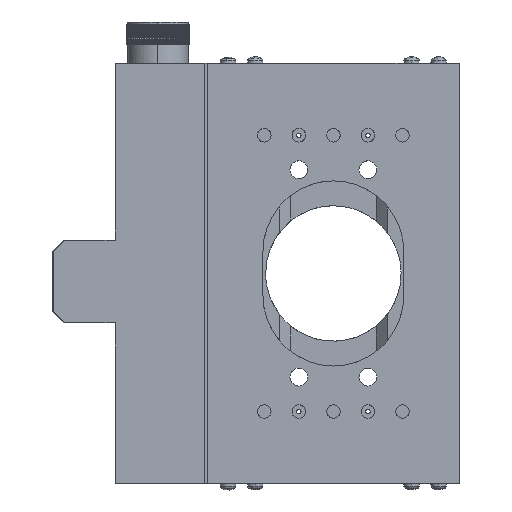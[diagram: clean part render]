
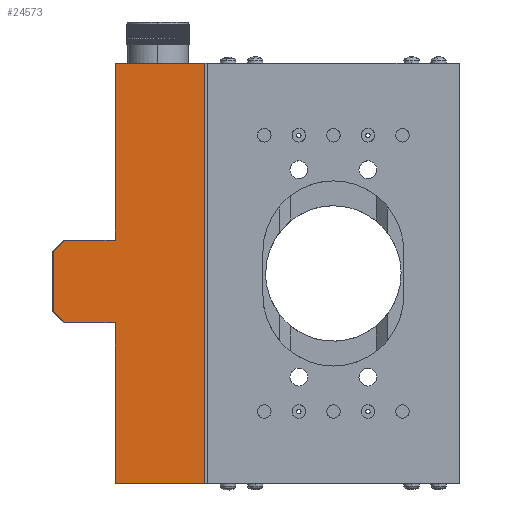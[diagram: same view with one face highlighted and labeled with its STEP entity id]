
A CAD part, front view. The second image highlights one B-rep face of the part: STEP entity #24573.
In plain terms, the highlighted planar face has unit normal (0, -1, 0).
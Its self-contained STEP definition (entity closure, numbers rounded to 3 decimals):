
#7613 = EDGE_CURVE ( 'NONE', #7629, #7614, #41215, .T. ) ;
#7614 = VERTEX_POINT ( 'NONE', #41211 ) ;
#7621 = EDGE_CURVE ( 'NONE', #7614, #7622, #41265, .T. ) ;
#7622 = VERTEX_POINT ( 'NONE', #41261 ) ;
#7629 = VERTEX_POINT ( 'NONE', #41250 ) ;
#7633 = VERTEX_POINT ( 'NONE', #41248 ) ;
#7635 = EDGE_CURVE ( 'NONE', #7633, #7629, #41243, .T. ) ;
#7667 = EDGE_CURVE ( 'NONE', #7685, #7668, #41313, .T. ) ;
#7668 = VERTEX_POINT ( 'NONE', #41305 ) ;
#7684 = EDGE_CURVE ( 'NONE', #7622, #7685, #41330, .T. ) ;
#7685 = VERTEX_POINT ( 'NONE', #41326 ) ;
#13275 = VERTEX_POINT ( 'NONE', #56352 ) ;
#18081 = VERTEX_POINT ( 'NONE', #92497 ) ;
#18083 = EDGE_CURVE ( 'NONE', #18081, #13275, #92487, .T. ) ;
#20714 = EDGE_CURVE ( 'NONE', #7668, #18081, #56498, .T. ) ;
#20730 = VERTEX_POINT ( 'NONE', #56565 ) ;
#20733 = EDGE_CURVE ( 'NONE', #20730, #7633, #56559, .T. ) ;
#24554 = ORIENTED_EDGE ( 'NONE', *, *, #7613, .F. ) ;
#24555 = ORIENTED_EDGE ( 'NONE', *, *, #7635, .F. ) ;
#24556 = ORIENTED_EDGE ( 'NONE', *, *, #20733, .F. ) ;
#24557 = ORIENTED_EDGE ( 'NONE', *, *, #24558, .F. ) ;
#24558 = EDGE_CURVE ( 'NONE', #24569, #20730, #65782, .T. ) ;
#24559 = ORIENTED_EDGE ( 'NONE', *, *, #24568, .F. ) ;
#24560 = ORIENTED_EDGE ( 'NONE', *, *, #24561, .T. ) ;
#24561 = EDGE_CURVE ( 'NONE', #24590, #13275, #65778, .T. ) ;
#24562 = ORIENTED_EDGE ( 'NONE', *, *, #18083, .F. ) ;
#24563 = ORIENTED_EDGE ( 'NONE', *, *, #20714, .F. ) ;
#24564 = ORIENTED_EDGE ( 'NONE', *, *, #7667, .F. ) ;
#24568 = EDGE_CURVE ( 'NONE', #24590, #24569, #65770, .T. ) ;
#24569 = VERTEX_POINT ( 'NONE', #65766 ) ;
#24573 = ADVANCED_FACE ( 'NONE', ( #65825 ), #65824, .F. ) ;
#24574 = EDGE_LOOP ( 'NONE', ( #24575, #24576, #24554, #24555, #24556, #24557, #24559, #24560, #24562, #24563, #24564 ) ) ;
#24575 = ORIENTED_EDGE ( 'NONE', *, *, #7684, .F. ) ;
#24576 = ORIENTED_EDGE ( 'NONE', *, *, #7621, .F. ) ;
#24590 = VERTEX_POINT ( 'NONE', #65797 ) ;
#41211 = CARTESIAN_POINT ( 'NONE',  ( -97.612, -3.772, 62.096 ) ) ;
#41212 = DIRECTION ( 'NONE',  ( -0.708, 0., 0.706 ) ) ;
#41213 = VECTOR ( 'NONE', #41212, 1000. ) ;
#41214 = CARTESIAN_POINT ( 'NONE',  ( -93.597, -3.772, 58.096 ) ) ;
#41215 = LINE ( 'NONE', #41214, #41213 ) ;
#41240 = DIRECTION ( 'NONE',  ( -1., 0., 0. ) ) ;
#41241 = VECTOR ( 'NONE', #41240, 1000. ) ;
#41242 = CARTESIAN_POINT ( 'NONE',  ( -97.612, -3.772, 58.096 ) ) ;
#41243 = LINE ( 'NONE', #41242, #41241 ) ;
#41248 = CARTESIAN_POINT ( 'NONE',  ( -75.324, -3.772, 58.096 ) ) ;
#41250 = CARTESIAN_POINT ( 'NONE',  ( -93.597, -3.772, 58.096 ) ) ;
#41261 = CARTESIAN_POINT ( 'NONE',  ( -97.612, -3.772, 84.096 ) ) ;
#41262 = DIRECTION ( 'NONE',  ( 0., 0., 1. ) ) ;
#41263 = VECTOR ( 'NONE', #41262, 1000. ) ;
#41264 = CARTESIAN_POINT ( 'NONE',  ( -97.612, -3.772, 58.096 ) ) ;
#41265 = LINE ( 'NONE', #41264, #41263 ) ;
#41305 = CARTESIAN_POINT ( 'NONE',  ( -75.324, -3.772, 88.096 ) ) ;
#41306 = DIRECTION ( 'NONE',  ( 1., 0., 0. ) ) ;
#41307 = VECTOR ( 'NONE', #41306, 1000. ) ;
#41308 = CARTESIAN_POINT ( 'NONE',  ( -97.612, -3.772, 88.096 ) ) ;
#41313 = LINE ( 'NONE', #41308, #41307 ) ;
#41326 = CARTESIAN_POINT ( 'NONE',  ( -93.597, -3.772, 88.096 ) ) ;
#41327 = DIRECTION ( 'NONE',  ( 0.708, 0., 0.706 ) ) ;
#41328 = VECTOR ( 'NONE', #41327, 1000. ) ;
#41329 = CARTESIAN_POINT ( 'NONE',  ( -97.612, -3.772, 84.096 ) ) ;
#41330 = LINE ( 'NONE', #41329, #41328 ) ;
#56352 = CARTESIAN_POINT ( 'NONE',  ( -59.824, -3.772, 152. ) ) ;
#56485 = CARTESIAN_POINT ( 'NONE',  ( -75.324, -3.772, 152. ) ) ;
#56487 = CARTESIAN_POINT ( 'NONE',  ( -75.324, -3.772, 130.699 ) ) ;
#56489 = CARTESIAN_POINT ( 'NONE',  ( -75.324, -3.772, 109.397 ) ) ;
#56490 = CARTESIAN_POINT ( 'NONE',  ( -75.324, -3.772, 88.096 ) ) ;
#56498 = B_SPLINE_CURVE_WITH_KNOTS ( 'NONE', 3,
 ( #56490, #56489, #56487, #56485 ),
 .UNSPECIFIED., .F., .F.,
 ( 4, 4 ),
 ( 0., 1. ),
 .UNSPECIFIED. ) ;
#56549 = CARTESIAN_POINT ( 'NONE',  ( -75.324, -3.772, 58.096 ) ) ;
#56550 = CARTESIAN_POINT ( 'NONE',  ( -75.324, -3.772, 38.73 ) ) ;
#56551 = CARTESIAN_POINT ( 'NONE',  ( -75.324, -3.772, 19.365 ) ) ;
#56553 = CARTESIAN_POINT ( 'NONE',  ( -75.324, -3.772, 0. ) ) ;
#56559 = B_SPLINE_CURVE_WITH_KNOTS ( 'NONE', 3,
 ( #56553, #56551, #56550, #56549 ),
 .UNSPECIFIED., .F., .F.,
 ( 4, 4 ),
 ( 0., 1. ),
 .UNSPECIFIED. ) ;
#56565 = CARTESIAN_POINT ( 'NONE',  ( -75.324, -3.772, 0. ) ) ;
#65766 = CARTESIAN_POINT ( 'NONE',  ( -42.824, -3.772, 0. ) ) ;
#65767 = DIRECTION ( 'NONE',  ( 0., 0., -1. ) ) ;
#65768 = VECTOR ( 'NONE', #65767, 1000. ) ;
#65769 = CARTESIAN_POINT ( 'NONE',  ( -42.824, -3.772, 58.096 ) ) ;
#65770 = LINE ( 'NONE', #65769, #65768 ) ;
#65775 = DIRECTION ( 'NONE',  ( -1., 0., 0. ) ) ;
#65776 = VECTOR ( 'NONE', #65775, 1000. ) ;
#65777 = CARTESIAN_POINT ( 'NONE',  ( -57.042, -3.772, 152. ) ) ;
#65778 = LINE ( 'NONE', #65777, #65776 ) ;
#65779 = DIRECTION ( 'NONE',  ( -1., 0., 0. ) ) ;
#65780 = VECTOR ( 'NONE', #65779, 1000. ) ;
#65781 = CARTESIAN_POINT ( 'NONE',  ( -57.042, -3.772, 0. ) ) ;
#65782 = LINE ( 'NONE', #65781, #65780 ) ;
#65797 = CARTESIAN_POINT ( 'NONE',  ( -42.824, -3.772, 152. ) ) ;
#65820 = DIRECTION ( 'NONE',  ( 0., 0., 1. ) ) ;
#65821 = DIRECTION ( 'NONE',  ( 0., 1., 0. ) ) ;
#65822 = CARTESIAN_POINT ( 'NONE',  ( -97.612, -3.772, 58.096 ) ) ;
#65823 = AXIS2_PLACEMENT_3D ( 'NONE', #65822, #65821, #65820 ) ;
#65824 = PLANE ( 'NONE',  #65823 ) ;
#65825 = FACE_OUTER_BOUND ( 'NONE', #24574, .T. ) ;
#92484 = DIRECTION ( 'NONE',  ( 1., 0., 0. ) ) ;
#92485 = VECTOR ( 'NONE', #92484, 1000. ) ;
#92486 = CARTESIAN_POINT ( 'NONE',  ( -97.612, -3.772, 152. ) ) ;
#92487 = LINE ( 'NONE', #92486, #92485 ) ;
#92497 = CARTESIAN_POINT ( 'NONE',  ( -75.324, -3.772, 152. ) ) ;
